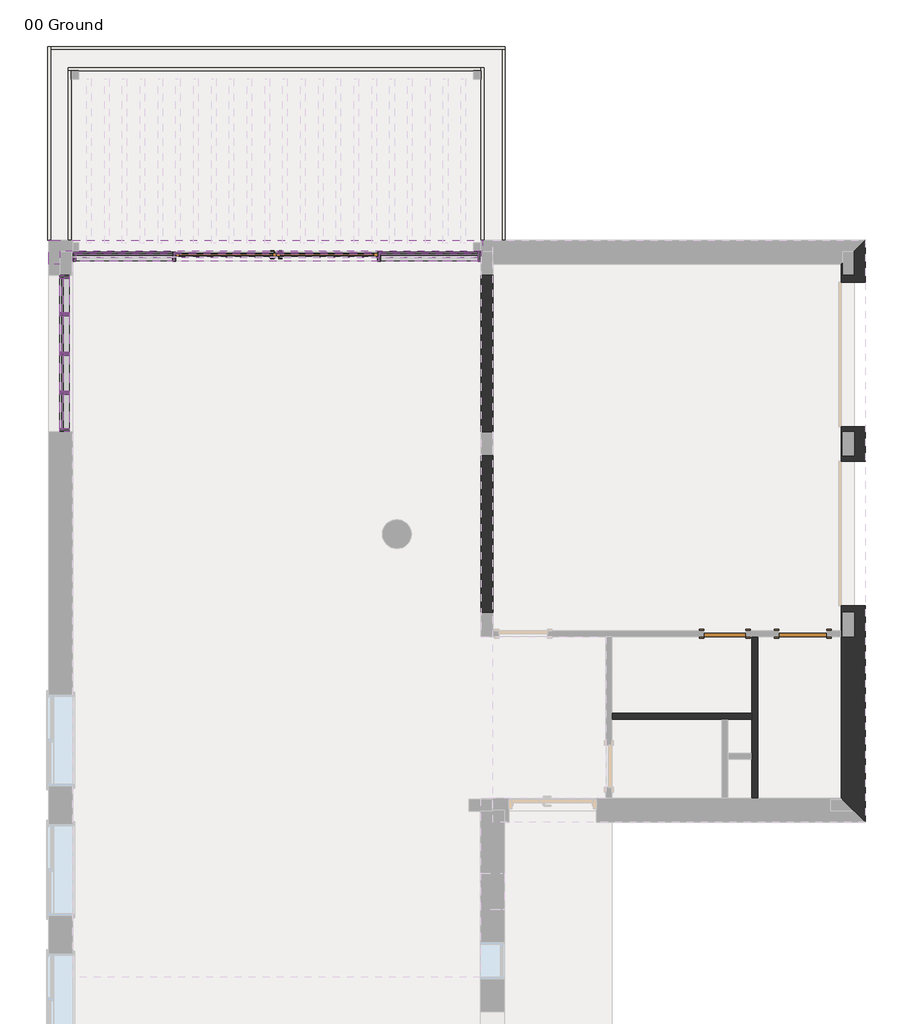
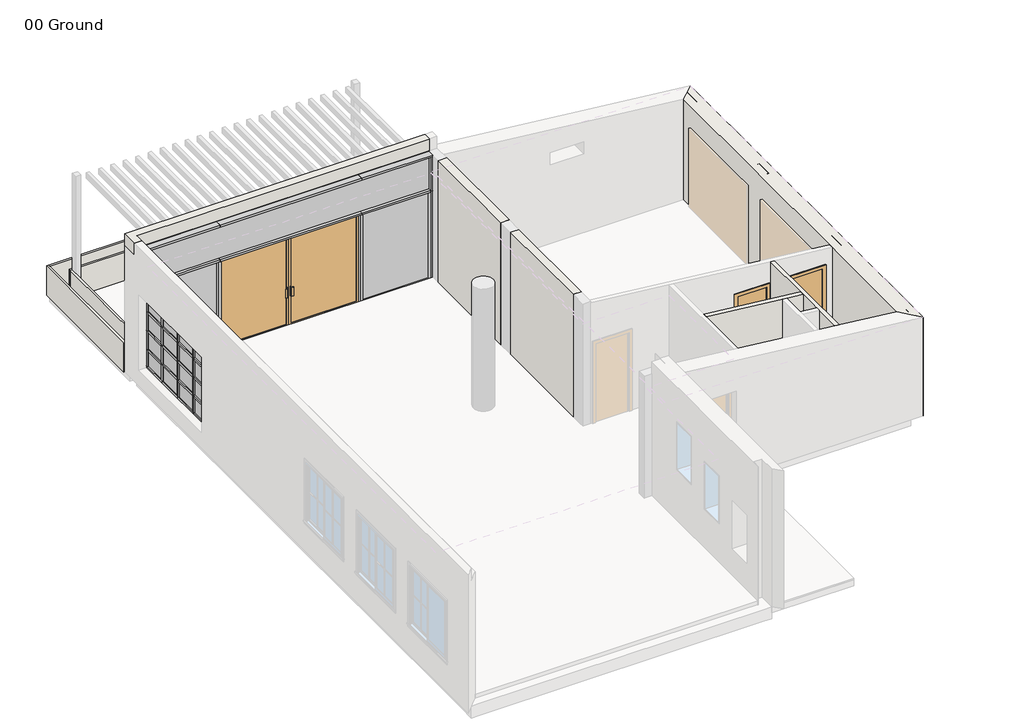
# One storey, part 2 of 3: 54 members, 19 plates, 12 walls, 3 doors.
"""IFC4 building model written with IfcOpenShell, lengths in millimetres."""

from ifc_helpers import new_model, si_unit, origin, origin_with_axes, place, context, project, spatial, polyline, outline, extrude, faceted_brep, transform, mapped, element, save
from components import m_door_curtain_wall_double_storefront_m_door_curtain_wall_edb91ac7, m_single_flush_0700_x_2100mm_23326b45, m_single_flush_0800_x_2100mm_e1c1bfab, rectangular_mullion_50_x_150mm_b8963a12, rectangular_mullion_50_x_150mm_ca64fab8, rectangular_mullion_50_x_150mm_c8600b0d, rectangular_mullion_50_x_150mm_7893aaae, rectangular_mullion_50_x_150mm_57f910c3, rectangular_mullion_50_x_150mm_ec782ea6, rectangular_mullion_50_x_150mm_8753ce05, rectangular_mullion_50_x_150mm_324a6438, rectangular_mullion_50_x_150mm_5618a3b2, rectangular_mullion_50_x_150mm_9d7ed0e7, rectangular_mullion_50_x_150mm_3942d5f1, rectangular_mullion_50_x_150mm_75048c14, rectangular_mullion_50_x_150mm_fcf054f2, rectangular_mullion_50_x_150mm_24157160, rectangular_mullion_50_x_150mm_bf0cb304, rectangular_mullion_50_x_150mm_89c22e8d, rectangular_mullion_50_x_150mm_42d59fea, rectangular_mullion_50_x_150mm_129a33a7, rectangular_mullion_50_x_150mm_05a43cda, system_panel_glazed_18425fd7, system_panel_glazed_5c27190a, system_panel_glazed_fdc58650, system_panel_glazed_707fa540, system_panel_glazed_f545c6ae, system_panel_glazed_1a6db426, system_panel_solid_6db23722

model = new_model("IFC4")

# Units and contexts
model_context = context("Model", 3, world=origin())
ifc_project = project(units=[si_unit("LENGTHUNIT", "METRE", prefix="MILLI")], contexts=[model_context])

# Site, building, storey
site = spatial("IfcSite", under=ifc_project)
building = spatial("IfcBuilding", under=site)
storey = spatial("IfcBuildingStorey", under=building, Name="00 Ground", Elevation=0.0)

# Doors
placement = place(None, origin())
m_door_curtain_wall_double_storefront_m_door_curtain_wall_shape = m_door_curtain_wall_double_storefront_m_door_curtain_wall_edb91ac7(model_context)
element("IfcDoor", 1, ObjectType="M_Door-Curtain-Wall-Double-Storefront : M_Door-Curtain-Wall-Double-Storefront", at=placement, inside=storey, context=model_context, shape_type="MappedRepresentation", body=[
    mapped(m_door_curtain_wall_double_storefront_m_door_curtain_wall_shape, transform((-4722.5407999, 6242.2898352, 0.0), x_axis=(1.0, 0.0, 0.0), y_axis=(0.0, 1.0, 0.0), z_axis=(0.0, 0.0, 1.0))),
])
m_single_flush_0700_x_2100mm_shape = m_single_flush_0700_x_2100mm_23326b45(model_context)
element("IfcDoor", 2, ObjectType="M_Single-Flush : 0700 x 2100mm", at=placement, inside=storey, context=model_context, shape_type="MappedRepresentation", body=[
    mapped(m_single_flush_0700_x_2100mm_shape, transform((2727.4592001, -12.7101648, 0.0), x_axis=(-1.0, 0.0, 0.0), y_axis=(0.0, -1.0, 0.0), z_axis=(0.0, 0.0, 1.0))),
])
m_single_flush_0800_x_2100mm_shape = m_single_flush_0800_x_2100mm_e1c1bfab(model_context)
element("IfcDoor", 3, ObjectType="M_Single-Flush : 0800 x 2100mm", at=placement, inside=storey, context=model_context, shape_type="MappedRepresentation", body=[
    mapped(m_single_flush_0800_x_2100mm_shape, transform((4024.4592001, -12.7101648, 0.0), x_axis=(1.0, 0.0, 0.0), y_axis=(0.0, 1.0, 0.0), z_axis=(0.0, 0.0, 1.0))),
])

# Members
rectangular_mullion_50_x_150mm_shape = rectangular_mullion_50_x_150mm_b8963a12(model_context)
element("IfcMember", 4, ObjectType="Rectangular Mullion : 50 x 150mm", at=placement, inside=storey, context=model_context, shape_type="MappedRepresentation", body=[
    mapped(rectangular_mullion_50_x_150mm_shape, transform((-2997.5407999, 6242.2898352, 0.0), x_axis=(0.0, 0.0, -1.0), y_axis=(0.0, -1.0, 0.0), z_axis=(-1.0, 0.0, 0.0))),
])
rectangular_mullion_50_x_150mm_2_shape = rectangular_mullion_50_x_150mm_ca64fab8(model_context)
element("IfcMember", 5, ObjectType="Rectangular Mullion : 50 x 150mm", at=placement, inside=storey, context=model_context, shape_type="MappedRepresentation", body=[
    mapped(rectangular_mullion_50_x_150mm_2_shape, transform((-3022.5407999, 6242.2898352, 3200.0), x_axis=(0.0, 0.0, 1.0), y_axis=(0.0, -1.0, 0.0), z_axis=(1.0, 0.0, 0.0))),
])
rectangular_mullion_50_x_150mm_3_shape = rectangular_mullion_50_x_150mm_c8600b0d(model_context)
element("IfcMember", 6, ObjectType="Rectangular Mullion : 50 x 150mm", at=placement, inside=storey, context=model_context, shape_type="MappedRepresentation", body=[
    mapped(rectangular_mullion_50_x_150mm_3_shape, transform((-1322.5407999, 6242.2898352, 3200.0), x_axis=(0.0, 0.0, 1.0), y_axis=(0.0, -1.0, 0.0), z_axis=(1.0, 0.0, 0.0))),
])
rectangular_mullion_50_x_150mm_4_shape = rectangular_mullion_50_x_150mm_7893aaae(model_context)
element("IfcMember", 7, ObjectType="Rectangular Mullion : 50 x 150mm", at=placement, inside=storey, context=model_context, shape_type="MappedRepresentation", body=[
    mapped(rectangular_mullion_50_x_150mm_4_shape, transform((-1372.5407999, 6242.2898352, 2300.0), x_axis=(0.0, 0.0, 1.0), y_axis=(0.0, -1.0, 0.0), z_axis=(1.0, 0.0, 0.0))),
])
rectangular_mullion_50_x_150mm_5_shape = rectangular_mullion_50_x_150mm_57f910c3(model_context)
element("IfcMember", 8, ObjectType="Rectangular Mullion : 50 x 150mm", at=placement, inside=storey, context=model_context, shape_type="MappedRepresentation", body=[
    mapped(rectangular_mullion_50_x_150mm_5_shape, transform((-3022.5407999, 6242.2898352, 2300.0), x_axis=(0.0, 0.0, 1.0), y_axis=(0.0, -1.0, 0.0), z_axis=(1.0, 0.0, 0.0))),
])
rectangular_mullion_50_x_150mm_6_shape = rectangular_mullion_50_x_150mm_ec782ea6(model_context)
element("IfcMember", 9, ObjectType="Rectangular Mullion : 50 x 150mm", at=placement, inside=storey, context=model_context, shape_type="MappedRepresentation", body=[
    mapped(rectangular_mullion_50_x_150mm_6_shape, transform((-6422.5407999, 6242.2898352, 0.0), x_axis=(1.0, 0.0, 0.0), y_axis=(0.0, -1.0, 0.0), z_axis=(0.0, 0.0, -1.0))),
])
element("IfcMember", 10, ObjectType="Rectangular Mullion : 50 x 150mm", at=placement, inside=storey, context=model_context, shape_type="MappedRepresentation", body=[
    mapped(rectangular_mullion_50_x_150mm_6_shape, transform((-3022.5407999, 6242.2898352, 0.0), x_axis=(1.0, 0.0, 0.0), y_axis=(0.0, -1.0, 0.0), z_axis=(0.0, 0.0, -1.0))),
])
rectangular_mullion_50_x_150mm_7_shape = rectangular_mullion_50_x_150mm_8753ce05(model_context)
element("IfcMember", 11, ObjectType="Rectangular Mullion : 50 x 150mm", at=placement, inside=storey, context=model_context, shape_type="MappedRepresentation", body=[
    mapped(rectangular_mullion_50_x_150mm_7_shape, transform((-1322.5407999, 6242.2898352, 0.0), x_axis=(1.0, 0.0, 0.0), y_axis=(0.0, -1.0, 0.0), z_axis=(0.0, 0.0, -1.0))),
])
rectangular_mullion_50_x_150mm_8_shape = rectangular_mullion_50_x_150mm_324a6438(model_context)
element("IfcMember", 12, ObjectType="Rectangular Mullion : 50 x 150mm", at=placement, inside=storey, context=model_context, shape_type="MappedRepresentation", body=[
    mapped(rectangular_mullion_50_x_150mm_8_shape, transform((-8109.5407999, 6242.2898352, 3150.0), x_axis=(-1.0, 0.0, 0.0), y_axis=(0.0, -1.0, 0.0), z_axis=(0.0, 0.0, 1.0))),
])
element("IfcMember", 13, ObjectType="Rectangular Mullion : 50 x 150mm", at=placement, inside=storey, context=model_context, shape_type="MappedRepresentation", body=[
    mapped(rectangular_mullion_50_x_150mm_8_shape, transform((-1322.5407999, 6242.2898352, 2300.0), x_axis=(1.0, 0.0, 0.0), y_axis=(0.0, -1.0, 0.0), z_axis=(0.0, 0.0, -1.0))),
])
element("IfcMember", 14, ObjectType="Rectangular Mullion : 50 x 150mm", at=placement, inside=storey, context=model_context, shape_type="MappedRepresentation", body=[
    mapped(rectangular_mullion_50_x_150mm_7_shape, transform((-8109.5407999, 6242.2898352, 2300.0), x_axis=(-1.0, 0.0, 0.0), y_axis=(0.0, -1.0, 0.0), z_axis=(0.0, 0.0, 1.0))),
])
rectangular_mullion_50_x_150mm_9_shape = rectangular_mullion_50_x_150mm_5618a3b2(model_context)
element("IfcMember", 15, ObjectType="Rectangular Mullion : 50 x 150mm", at=placement, inside=storey, context=model_context, shape_type="MappedRepresentation", body=[
    mapped(rectangular_mullion_50_x_150mm_9_shape, transform((-8247.5407999, 5937.2898352, 2300.0), x_axis=(0.0, 0.0, 1.0), y_axis=(1.0, 0.0, 0.0), z_axis=(0.0, 1.0, 0.0))),
])
element("IfcMember", 16, ObjectType="Rectangular Mullion : 50 x 150mm", at=placement, inside=storey, context=model_context, shape_type="MappedRepresentation", body=[
    mapped(rectangular_mullion_50_x_150mm_9_shape, transform((-8247.5407999, 3987.2898354, 2300.0), x_axis=(0.0, 0.0, 1.0), y_axis=(1.0, 0.0, 0.0), z_axis=(0.0, 1.0, 0.0))),
])
rectangular_mullion_50_x_150mm_10_shape = rectangular_mullion_50_x_150mm_9d7ed0e7(model_context)
element("IfcMember", 17, ObjectType="Rectangular Mullion : 50 x 150mm", at=placement, inside=storey, context=model_context, shape_type="MappedRepresentation", body=[
    mapped(rectangular_mullion_50_x_150mm_10_shape, transform((-8247.5407999, 4637.2898352, 2300.0), x_axis=(0.0, 0.0, 1.0), y_axis=(1.0, 0.0, 0.0), z_axis=(0.0, 1.0, 0.0))),
])
element("IfcMember", 18, ObjectType="Rectangular Mullion : 50 x 150mm", at=placement, inside=storey, context=model_context, shape_type="MappedRepresentation", body=[
    mapped(rectangular_mullion_50_x_150mm_10_shape, transform((-8247.5407999, 5287.2898351, 2300.0), x_axis=(0.0, 0.0, 1.0), y_axis=(1.0, 0.0, 0.0), z_axis=(0.0, 1.0, 0.0))),
])
element("IfcMember", 19, ObjectType="Rectangular Mullion : 50 x 150mm", at=placement, inside=storey, context=model_context, shape_type="MappedRepresentation", body=[
    mapped(rectangular_mullion_50_x_150mm_9_shape, transform((-8247.5407999, 3337.2898352, 400.0), x_axis=(0.0, 0.0, -1.0), y_axis=(1.0, 0.0, 0.0), z_axis=(0.0, -1.0, 0.0))),
])
element("IfcMember", 20, ObjectType="Rectangular Mullion : 50 x 150mm", at=placement, inside=storey, context=model_context, shape_type="MappedRepresentation", body=[
    mapped(rectangular_mullion_50_x_150mm_10_shape, transform((-8247.5407999, 3987.2898354, 400.0), x_axis=(0.0, 0.0, -1.0), y_axis=(1.0, 0.0, 0.0), z_axis=(0.0, -1.0, 0.0))),
])
element("IfcMember", 21, ObjectType="Rectangular Mullion : 50 x 150mm", at=placement, inside=storey, context=model_context, shape_type="MappedRepresentation", body=[
    mapped(rectangular_mullion_50_x_150mm_10_shape, transform((-8247.5407999, 4637.2898352, 400.0), x_axis=(0.0, 0.0, -1.0), y_axis=(1.0, 0.0, 0.0), z_axis=(0.0, -1.0, 0.0))),
])
element("IfcMember", 22, ObjectType="Rectangular Mullion : 50 x 150mm", at=placement, inside=storey, context=model_context, shape_type="MappedRepresentation", body=[
    mapped(rectangular_mullion_50_x_150mm_9_shape, transform((-8247.5407999, 5287.2898351, 400.0), x_axis=(0.0, 0.0, -1.0), y_axis=(1.0, 0.0, 0.0), z_axis=(0.0, -1.0, 0.0))),
])
rectangular_mullion_50_x_150mm_11_shape = rectangular_mullion_50_x_150mm_3942d5f1(model_context)
element("IfcMember", 23, ObjectType="Rectangular Mullion : 50 x 150mm", at=placement, inside=storey, context=model_context, shape_type="MappedRepresentation", body=[
    mapped(rectangular_mullion_50_x_150mm_11_shape, transform((-8247.5407999, 3962.2898354, 875.0), x_axis=(0.0, 0.0, 1.0), y_axis=(1.0, 0.0, 0.0), z_axis=(0.0, 1.0, 0.0))),
])
element("IfcMember", 24, ObjectType="Rectangular Mullion : 50 x 150mm", at=placement, inside=storey, context=model_context, shape_type="MappedRepresentation", body=[
    mapped(rectangular_mullion_50_x_150mm_11_shape, transform((-8247.5407999, 5887.2898352, 875.0), x_axis=(0.0, 0.0, 1.0), y_axis=(1.0, 0.0, 0.0), z_axis=(0.0, 1.0, 0.0))),
])
element("IfcMember", 25, ObjectType="Rectangular Mullion : 50 x 150mm", at=placement, inside=storey, context=model_context, shape_type="MappedRepresentation", body=[
    mapped(rectangular_mullion_50_x_150mm_11_shape, transform((-8247.5407999, 3962.2898354, 1350.0), x_axis=(0.0, 0.0, 1.0), y_axis=(1.0, 0.0, 0.0), z_axis=(0.0, 1.0, 0.0))),
])
element("IfcMember", 26, ObjectType="Rectangular Mullion : 50 x 150mm", at=placement, inside=storey, context=model_context, shape_type="MappedRepresentation", body=[
    mapped(rectangular_mullion_50_x_150mm_11_shape, transform((-8247.5407999, 5887.2898352, 1350.0), x_axis=(0.0, 0.0, 1.0), y_axis=(1.0, 0.0, 0.0), z_axis=(0.0, 1.0, 0.0))),
])
element("IfcMember", 27, ObjectType="Rectangular Mullion : 50 x 150mm", at=placement, inside=storey, context=model_context, shape_type="MappedRepresentation", body=[
    mapped(rectangular_mullion_50_x_150mm_11_shape, transform((-8247.5407999, 3962.2898354, 1825.0), x_axis=(0.0, 0.0, 1.0), y_axis=(1.0, 0.0, 0.0), z_axis=(0.0, 1.0, 0.0))),
])
element("IfcMember", 28, ObjectType="Rectangular Mullion : 50 x 150mm", at=placement, inside=storey, context=model_context, shape_type="MappedRepresentation", body=[
    mapped(rectangular_mullion_50_x_150mm_11_shape, transform((-8247.5407999, 5887.2898352, 1825.0), x_axis=(0.0, 0.0, 1.0), y_axis=(1.0, 0.0, 0.0), z_axis=(0.0, 1.0, 0.0))),
])
rectangular_mullion_50_x_150mm_12_shape = rectangular_mullion_50_x_150mm_75048c14(model_context)
element("IfcMember", 29, ObjectType="Rectangular Mullion : 50 x 150mm", at=placement, inside=storey, context=model_context, shape_type="MappedRepresentation", body=[
    mapped(rectangular_mullion_50_x_150mm_12_shape, transform((-8247.5407999, 4612.2898352, 875.0), x_axis=(0.0, 0.0, 1.0), y_axis=(1.0, 0.0, 0.0), z_axis=(0.0, 1.0, 0.0))),
])
element("IfcMember", 30, ObjectType="Rectangular Mullion : 50 x 150mm", at=placement, inside=storey, context=model_context, shape_type="MappedRepresentation", body=[
    mapped(rectangular_mullion_50_x_150mm_12_shape, transform((-8247.5407999, 5262.2898351, 875.0), x_axis=(0.0, 0.0, 1.0), y_axis=(1.0, 0.0, 0.0), z_axis=(0.0, 1.0, 0.0))),
])
element("IfcMember", 31, ObjectType="Rectangular Mullion : 50 x 150mm", at=placement, inside=storey, context=model_context, shape_type="MappedRepresentation", body=[
    mapped(rectangular_mullion_50_x_150mm_12_shape, transform((-8247.5407999, 4612.2898352, 1350.0), x_axis=(0.0, 0.0, 1.0), y_axis=(1.0, 0.0, 0.0), z_axis=(0.0, 1.0, 0.0))),
])
element("IfcMember", 32, ObjectType="Rectangular Mullion : 50 x 150mm", at=placement, inside=storey, context=model_context, shape_type="MappedRepresentation", body=[
    mapped(rectangular_mullion_50_x_150mm_12_shape, transform((-8247.5407999, 5262.2898351, 1350.0), x_axis=(0.0, 0.0, 1.0), y_axis=(1.0, 0.0, 0.0), z_axis=(0.0, 1.0, 0.0))),
])
element("IfcMember", 33, ObjectType="Rectangular Mullion : 50 x 150mm", at=placement, inside=storey, context=model_context, shape_type="MappedRepresentation", body=[
    mapped(rectangular_mullion_50_x_150mm_12_shape, transform((-8247.5407999, 4612.2898352, 1825.0), x_axis=(0.0, 0.0, 1.0), y_axis=(1.0, 0.0, 0.0), z_axis=(0.0, 1.0, 0.0))),
])
element("IfcMember", 34, ObjectType="Rectangular Mullion : 50 x 150mm", at=placement, inside=storey, context=model_context, shape_type="MappedRepresentation", body=[
    mapped(rectangular_mullion_50_x_150mm_12_shape, transform((-8247.5407999, 5262.2898351, 1825.0), x_axis=(0.0, 0.0, 1.0), y_axis=(1.0, 0.0, 0.0), z_axis=(0.0, 1.0, 0.0))),
])
rectangular_mullion_50_x_150mm_13_shape = rectangular_mullion_50_x_150mm_fcf054f2(model_context)
element("IfcMember", 35, ObjectType="Rectangular Mullion : 50 x 150mm", at=placement, inside=storey, context=model_context, shape_type="MappedRepresentation", body=[
    mapped(rectangular_mullion_50_x_150mm_13_shape, transform((-6422.5407999, 6242.2898352, 3200.0), x_axis=(0.0, 0.0, 1.0), y_axis=(0.0, -1.0, 0.0), z_axis=(1.0, 0.0, 0.0))),
])
rectangular_mullion_50_x_150mm_14_shape = rectangular_mullion_50_x_150mm_24157160(model_context)
element("IfcMember", 36, ObjectType="Rectangular Mullion : 50 x 150mm", at=placement, inside=storey, context=model_context, shape_type="MappedRepresentation", body=[
    mapped(rectangular_mullion_50_x_150mm_14_shape, transform((-8059.5407999, 6242.2898352, 0.0), x_axis=(0.0, 0.0, -1.0), y_axis=(0.0, -1.0, 0.0), z_axis=(-1.0, 0.0, 0.0))),
])
rectangular_mullion_50_x_150mm_15_shape = rectangular_mullion_50_x_150mm_bf0cb304(model_context)
element("IfcMember", 37, ObjectType="Rectangular Mullion : 50 x 150mm", at=placement, inside=storey, context=model_context, shape_type="MappedRepresentation", body=[
    mapped(rectangular_mullion_50_x_150mm_15_shape, transform((-6422.5407999, 6242.2898352, 2300.0), x_axis=(0.0, 0.0, 1.0), y_axis=(0.0, -1.0, 0.0), z_axis=(1.0, 0.0, 0.0))),
])
rectangular_mullion_50_x_150mm_16_shape = rectangular_mullion_50_x_150mm_89c22e8d(model_context)
element("IfcMember", 38, ObjectType="Rectangular Mullion : 50 x 150mm", at=placement, inside=storey, context=model_context, shape_type="MappedRepresentation", body=[
    mapped(rectangular_mullion_50_x_150mm_16_shape, transform((-8247.5407999, 5937.2898352, 450.0), x_axis=(0.0, 1.0, 0.0), y_axis=(1.0, 0.0, 0.0), z_axis=(0.0, 0.0, -1.0))),
])
rectangular_mullion_50_x_150mm_17_shape = rectangular_mullion_50_x_150mm_42d59fea(model_context)
element("IfcMember", 39, ObjectType="Rectangular Mullion : 50 x 150mm", at=placement, inside=storey, context=model_context, shape_type="MappedRepresentation", body=[
    mapped(rectangular_mullion_50_x_150mm_17_shape, transform((-8247.5407999, 5937.2898352, 875.0), x_axis=(0.0, 1.0, 0.0), y_axis=(1.0, 0.0, 0.0), z_axis=(0.0, 0.0, -1.0))),
])
element("IfcMember", 40, ObjectType="Rectangular Mullion : 50 x 150mm", at=placement, inside=storey, context=model_context, shape_type="MappedRepresentation", body=[
    mapped(rectangular_mullion_50_x_150mm_17_shape, transform((-8247.5407999, 5937.2898352, 1350.0), x_axis=(0.0, 1.0, 0.0), y_axis=(1.0, 0.0, 0.0), z_axis=(0.0, 0.0, -1.0))),
])
element("IfcMember", 41, ObjectType="Rectangular Mullion : 50 x 150mm", at=placement, inside=storey, context=model_context, shape_type="MappedRepresentation", body=[
    mapped(rectangular_mullion_50_x_150mm_16_shape, transform((-8247.5407999, 5937.2898352, 1825.0), x_axis=(0.0, 1.0, 0.0), y_axis=(1.0, 0.0, 0.0), z_axis=(0.0, 0.0, -1.0))),
])
element("IfcMember", 42, ObjectType="Rectangular Mullion : 50 x 150mm", at=placement, inside=storey, context=model_context, shape_type="MappedRepresentation", body=[
    mapped(rectangular_mullion_50_x_150mm_16_shape, transform((-8247.5407999, 3337.2898352, 2250.0), x_axis=(0.0, -1.0, 0.0), y_axis=(1.0, 0.0, 0.0), z_axis=(0.0, 0.0, 1.0))),
])
element("IfcMember", 43, ObjectType="Rectangular Mullion : 50 x 150mm", at=placement, inside=storey, context=model_context, shape_type="MappedRepresentation", body=[
    mapped(rectangular_mullion_50_x_150mm_16_shape, transform((-8247.5407999, 3337.2898352, 875.0), x_axis=(0.0, -1.0, 0.0), y_axis=(1.0, 0.0, 0.0), z_axis=(0.0, 0.0, 1.0))),
])
element("IfcMember", 44, ObjectType="Rectangular Mullion : 50 x 150mm", at=placement, inside=storey, context=model_context, shape_type="MappedRepresentation", body=[
    mapped(rectangular_mullion_50_x_150mm_17_shape, transform((-8247.5407999, 3337.2898352, 1350.0), x_axis=(0.0, -1.0, 0.0), y_axis=(1.0, 0.0, 0.0), z_axis=(0.0, 0.0, 1.0))),
])
element("IfcMember", 45, ObjectType="Rectangular Mullion : 50 x 150mm", at=placement, inside=storey, context=model_context, shape_type="MappedRepresentation", body=[
    mapped(rectangular_mullion_50_x_150mm_17_shape, transform((-8247.5407999, 3337.2898352, 1825.0), x_axis=(0.0, -1.0, 0.0), y_axis=(1.0, 0.0, 0.0), z_axis=(0.0, 0.0, 1.0))),
])
rectangular_mullion_50_x_150mm_18_shape = rectangular_mullion_50_x_150mm_129a33a7(model_context)
element("IfcMember", 46, ObjectType="Rectangular Mullion : 50 x 150mm", at=placement, inside=storey, context=model_context, shape_type="MappedRepresentation", body=[
    mapped(rectangular_mullion_50_x_150mm_18_shape, transform((-8247.5407999, 3987.2898354, 450.0), x_axis=(0.0, 1.0, 0.0), y_axis=(1.0, 0.0, 0.0), z_axis=(0.0, 0.0, -1.0))),
])
element("IfcMember", 47, ObjectType="Rectangular Mullion : 50 x 150mm", at=placement, inside=storey, context=model_context, shape_type="MappedRepresentation", body=[
    mapped(rectangular_mullion_50_x_150mm_18_shape, transform((-8247.5407999, 4637.2898352, 450.0), x_axis=(0.0, 1.0, 0.0), y_axis=(1.0, 0.0, 0.0), z_axis=(0.0, 0.0, -1.0))),
])
element("IfcMember", 48, ObjectType="Rectangular Mullion : 50 x 150mm", at=placement, inside=storey, context=model_context, shape_type="MappedRepresentation", body=[
    mapped(rectangular_mullion_50_x_150mm_18_shape, transform((-8247.5407999, 5287.2898351, 450.0), x_axis=(0.0, 1.0, 0.0), y_axis=(1.0, 0.0, 0.0), z_axis=(0.0, 0.0, -1.0))),
])
rectangular_mullion_50_x_150mm_19_shape = rectangular_mullion_50_x_150mm_05a43cda(model_context)
element("IfcMember", 49, ObjectType="Rectangular Mullion : 50 x 150mm", at=placement, inside=storey, context=model_context, shape_type="MappedRepresentation", body=[
    mapped(rectangular_mullion_50_x_150mm_19_shape, transform((-8247.5407999, 3987.2898354, 875.0), x_axis=(0.0, 1.0, 0.0), y_axis=(1.0, 0.0, 0.0), z_axis=(0.0, 0.0, -1.0))),
])
element("IfcMember", 50, ObjectType="Rectangular Mullion : 50 x 150mm", at=placement, inside=storey, context=model_context, shape_type="MappedRepresentation", body=[
    mapped(rectangular_mullion_50_x_150mm_19_shape, transform((-8247.5407999, 4637.2898352, 875.0), x_axis=(0.0, 1.0, 0.0), y_axis=(1.0, 0.0, 0.0), z_axis=(0.0, 0.0, -1.0))),
])
element("IfcMember", 51, ObjectType="Rectangular Mullion : 50 x 150mm", at=placement, inside=storey, context=model_context, shape_type="MappedRepresentation", body=[
    mapped(rectangular_mullion_50_x_150mm_19_shape, transform((-8247.5407999, 5287.2898351, 875.0), x_axis=(0.0, 1.0, 0.0), y_axis=(1.0, 0.0, 0.0), z_axis=(0.0, 0.0, -1.0))),
])
element("IfcMember", 52, ObjectType="Rectangular Mullion : 50 x 150mm", at=placement, inside=storey, context=model_context, shape_type="MappedRepresentation", body=[
    mapped(rectangular_mullion_50_x_150mm_19_shape, transform((-8247.5407999, 3987.2898354, 1350.0), x_axis=(0.0, 1.0, 0.0), y_axis=(1.0, 0.0, 0.0), z_axis=(0.0, 0.0, -1.0))),
])
element("IfcMember", 53, ObjectType="Rectangular Mullion : 50 x 150mm", at=placement, inside=storey, context=model_context, shape_type="MappedRepresentation", body=[
    mapped(rectangular_mullion_50_x_150mm_19_shape, transform((-8247.5407999, 4637.2898352, 1350.0), x_axis=(0.0, 1.0, 0.0), y_axis=(1.0, 0.0, 0.0), z_axis=(0.0, 0.0, -1.0))),
])
element("IfcMember", 54, ObjectType="Rectangular Mullion : 50 x 150mm", at=placement, inside=storey, context=model_context, shape_type="MappedRepresentation", body=[
    mapped(rectangular_mullion_50_x_150mm_19_shape, transform((-8247.5407999, 5287.2898351, 1350.0), x_axis=(0.0, 1.0, 0.0), y_axis=(1.0, 0.0, 0.0), z_axis=(0.0, 0.0, -1.0))),
])
element("IfcMember", 55, ObjectType="Rectangular Mullion : 50 x 150mm", at=placement, inside=storey, context=model_context, shape_type="MappedRepresentation", body=[
    mapped(rectangular_mullion_50_x_150mm_18_shape, transform((-8247.5407999, 3987.2898354, 1825.0), x_axis=(0.0, 1.0, 0.0), y_axis=(1.0, 0.0, 0.0), z_axis=(0.0, 0.0, -1.0))),
])
element("IfcMember", 56, ObjectType="Rectangular Mullion : 50 x 150mm", at=placement, inside=storey, context=model_context, shape_type="MappedRepresentation", body=[
    mapped(rectangular_mullion_50_x_150mm_18_shape, transform((-8247.5407999, 4637.2898352, 1825.0), x_axis=(0.0, 1.0, 0.0), y_axis=(1.0, 0.0, 0.0), z_axis=(0.0, 0.0, -1.0))),
])
element("IfcMember", 57, ObjectType="Rectangular Mullion : 50 x 150mm", at=placement, inside=storey, context=model_context, shape_type="MappedRepresentation", body=[
    mapped(rectangular_mullion_50_x_150mm_18_shape, transform((-8247.5407999, 5287.2898351, 1825.0), x_axis=(0.0, 1.0, 0.0), y_axis=(1.0, 0.0, 0.0), z_axis=(0.0, 0.0, -1.0))),
])

# Plates
system_panel_glazed_shape = system_panel_glazed_18425fd7(model_context)
element("IfcPlate", 58, ObjectType="System Panel : Glazed", at=placement, inside=storey, context=model_context, shape_type="MappedRepresentation", body=[
    mapped(system_panel_glazed_shape, transform((-2185.0407999, 6242.2898352, 50.0), x_axis=(1.0, 0.0, 0.0), y_axis=(0.0, 1.0, 0.0), z_axis=(0.0, 0.0, 1.0))),
])
system_panel_glazed_2_shape = system_panel_glazed_5c27190a(model_context)
element("IfcPlate", 59, ObjectType="System Panel : Glazed", at=placement, inside=storey, context=model_context, shape_type="MappedRepresentation", body=[
    mapped(system_panel_glazed_2_shape, transform((-8247.5407999, 3674.7898353, 900.0), x_axis=(0.0, 1.0, 0.0), y_axis=(-1.0, 0.0, 0.0), z_axis=(0.0, 0.0, 1.0))),
])
element("IfcPlate", 60, ObjectType="System Panel : Glazed", at=placement, inside=storey, context=model_context, shape_type="MappedRepresentation", body=[
    mapped(system_panel_glazed_2_shape, transform((-8247.5407999, 5599.7898352, 900.0), x_axis=(0.0, 1.0, 0.0), y_axis=(-1.0, 0.0, 0.0), z_axis=(0.0, 0.0, 1.0))),
])
element("IfcPlate", 61, ObjectType="System Panel : Glazed", at=placement, inside=storey, context=model_context, shape_type="MappedRepresentation", body=[
    mapped(system_panel_glazed_2_shape, transform((-8247.5407999, 3674.7898353, 1375.0), x_axis=(0.0, 1.0, 0.0), y_axis=(-1.0, 0.0, 0.0), z_axis=(0.0, 0.0, 1.0))),
])
element("IfcPlate", 62, ObjectType="System Panel : Glazed", at=placement, inside=storey, context=model_context, shape_type="MappedRepresentation", body=[
    mapped(system_panel_glazed_2_shape, transform((-8247.5407999, 5599.7898352, 1375.0), x_axis=(0.0, 1.0, 0.0), y_axis=(-1.0, 0.0, 0.0), z_axis=(0.0, 0.0, 1.0))),
])
system_panel_glazed_3_shape = system_panel_glazed_fdc58650(model_context)
element("IfcPlate", 63, ObjectType="System Panel : Glazed", at=placement, inside=storey, context=model_context, shape_type="MappedRepresentation", body=[
    mapped(system_panel_glazed_3_shape, transform((-8247.5407999, 4312.2898353, 900.0), x_axis=(0.0, 1.0, 0.0), y_axis=(-1.0, 0.0, 0.0), z_axis=(0.0, 0.0, 1.0))),
])
element("IfcPlate", 64, ObjectType="System Panel : Glazed", at=placement, inside=storey, context=model_context, shape_type="MappedRepresentation", body=[
    mapped(system_panel_glazed_3_shape, transform((-8247.5407999, 4962.2898352, 900.0), x_axis=(0.0, 1.0, 0.0), y_axis=(-1.0, 0.0, 0.0), z_axis=(0.0, 0.0, 1.0))),
])
element("IfcPlate", 65, ObjectType="System Panel : Glazed", at=placement, inside=storey, context=model_context, shape_type="MappedRepresentation", body=[
    mapped(system_panel_glazed_3_shape, transform((-8247.5407999, 4312.2898353, 1375.0), x_axis=(0.0, 1.0, 0.0), y_axis=(-1.0, 0.0, 0.0), z_axis=(0.0, 0.0, 1.0))),
])
element("IfcPlate", 66, ObjectType="System Panel : Glazed", at=placement, inside=storey, context=model_context, shape_type="MappedRepresentation", body=[
    mapped(system_panel_glazed_3_shape, transform((-8247.5407999, 4962.2898352, 1375.0), x_axis=(0.0, 1.0, 0.0), y_axis=(-1.0, 0.0, 0.0), z_axis=(0.0, 0.0, 1.0))),
])
system_panel_glazed_4_shape = system_panel_glazed_707fa540(model_context)
element("IfcPlate", 67, ObjectType="System Panel : Glazed", at=placement, inside=storey, context=model_context, shape_type="MappedRepresentation", body=[
    mapped(system_panel_glazed_4_shape, transform((-7253.5407999, 6242.2898352, 50.0), x_axis=(1.0, 0.0, 0.0), y_axis=(0.0, 1.0, 0.0), z_axis=(0.0, 0.0, 1.0))),
])
system_panel_glazed_5_shape = system_panel_glazed_f545c6ae(model_context)
element("IfcPlate", 68, ObjectType="System Panel : Glazed", at=placement, inside=storey, context=model_context, shape_type="MappedRepresentation", body=[
    mapped(system_panel_glazed_5_shape, transform((-8247.5407999, 3674.7898353, 450.0), x_axis=(0.0, 1.0, 0.0), y_axis=(-1.0, 0.0, 0.0), z_axis=(0.0, 0.0, 1.0))),
])
element("IfcPlate", 69, ObjectType="System Panel : Glazed", at=placement, inside=storey, context=model_context, shape_type="MappedRepresentation", body=[
    mapped(system_panel_glazed_5_shape, transform((-8247.5407999, 5599.7898352, 450.0), x_axis=(0.0, 1.0, 0.0), y_axis=(-1.0, 0.0, 0.0), z_axis=(0.0, 0.0, 1.0))),
])
element("IfcPlate", 70, ObjectType="System Panel : Glazed", at=placement, inside=storey, context=model_context, shape_type="MappedRepresentation", body=[
    mapped(system_panel_glazed_5_shape, transform((-8247.5407999, 3674.7898353, 1850.0), x_axis=(0.0, 1.0, 0.0), y_axis=(-1.0, 0.0, 0.0), z_axis=(0.0, 0.0, 1.0))),
])
element("IfcPlate", 71, ObjectType="System Panel : Glazed", at=placement, inside=storey, context=model_context, shape_type="MappedRepresentation", body=[
    mapped(system_panel_glazed_5_shape, transform((-8247.5407999, 5599.7898352, 1850.0), x_axis=(0.0, 1.0, 0.0), y_axis=(-1.0, 0.0, 0.0), z_axis=(0.0, 0.0, 1.0))),
])
system_panel_glazed_6_shape = system_panel_glazed_1a6db426(model_context)
element("IfcPlate", 72, ObjectType="System Panel : Glazed", at=placement, inside=storey, context=model_context, shape_type="MappedRepresentation", body=[
    mapped(system_panel_glazed_6_shape, transform((-8247.5407999, 4312.2898353, 450.0), x_axis=(0.0, 1.0, 0.0), y_axis=(-1.0, 0.0, 0.0), z_axis=(0.0, 0.0, 1.0))),
])
element("IfcPlate", 73, ObjectType="System Panel : Glazed", at=placement, inside=storey, context=model_context, shape_type="MappedRepresentation", body=[
    mapped(system_panel_glazed_6_shape, transform((-8247.5407999, 4962.2898352, 450.0), x_axis=(0.0, 1.0, 0.0), y_axis=(-1.0, 0.0, 0.0), z_axis=(0.0, 0.0, 1.0))),
])
element("IfcPlate", 74, ObjectType="System Panel : Glazed", at=placement, inside=storey, context=model_context, shape_type="MappedRepresentation", body=[
    mapped(system_panel_glazed_6_shape, transform((-8247.5407999, 4312.2898353, 1850.0), x_axis=(0.0, 1.0, 0.0), y_axis=(-1.0, 0.0, 0.0), z_axis=(0.0, 0.0, 1.0))),
])
element("IfcPlate", 75, ObjectType="System Panel : Glazed", at=placement, inside=storey, context=model_context, shape_type="MappedRepresentation", body=[
    mapped(system_panel_glazed_6_shape, transform((-8247.5407999, 4962.2898352, 1850.0), x_axis=(0.0, 1.0, 0.0), y_axis=(-1.0, 0.0, 0.0), z_axis=(0.0, 0.0, 1.0))),
])
system_panel_solid_shape = system_panel_solid_6db23722(model_context)
element("IfcPlate", 76, ObjectType="System Panel : Solid", at=placement, inside=storey, context=model_context, shape_type="MappedRepresentation", body=[
    mapped(system_panel_solid_shape, transform((-4716.0407999, 6242.2898352, 2325.0), x_axis=(1.0, 0.0, 0.0), y_axis=(0.0, 1.0, 0.0), z_axis=(0.0, 0.0, 1.0))),
])

# Walls
element("IfcWall", 77, ObjectType="45T-25linea", at=placement, inside=storey, context=model_context, shape_type="SweptSolid", body=[
    extrude(outline(polyline([(-967.5407999, 6337.2898352), (-1122.5407999, 6337.2898352), (-1122.5407999, 6382.2898352), (-967.5407999, 6382.2898352), (-967.5407999, 6337.2898352)])), origin_with_axes(), (0.0, 0.0, 1.0), 750.0),
])
element("IfcWall", 78, ObjectType="45T-25linea", at=placement, inside=storey, context=model_context, shape_type="Brep", body=[
    faceted_brep([(-8477.5407999, 6522.2898352, 0.0), (-8477.5407999, 9692.2898352, 0.0), (-8477.5407999, 9737.2898352, 0.0), (-8477.5407999, 9737.2898352, 750.0), (-8477.5407999, 9692.2898352, 750.0), (-8477.5407999, 6522.2898352, 750.0), (-8522.5407999, 6522.2898352, 0.0), (-8522.5407999, 6522.2898352, 750.0), (-8522.5407999, 9737.2898352, 750.0), (-8522.5407999, 9737.2898352, 0.0)], [[[0, 1, 2, 3, 4, 5]], [[6, 7, 8, 9]], [[2, 1, 0, 6, 9]], [[5, 4, 3, 8, 7]], [[0, 5, 7, 6]], [[3, 2, 9, 8]]]),
])
element("IfcWall", 79, ObjectType="45T-25linea", at=placement, inside=storey, context=model_context, shape_type="Brep", body=[
    faceted_brep([(-8477.5407999, 9692.2898352, 0.0), (-967.5407999, 9692.2898352, 0.0), (-922.5407999, 9692.2898352, 0.0), (-922.5407999, 9692.2898352, 750.0), (-967.5407999, 9692.2898352, 750.0), (-8477.5407999, 9692.2898352, 750.0), (-8477.5407999, 9737.2898352, 0.0), (-8477.5407999, 9737.2898352, 750.0), (-922.5407999, 9737.2898352, 750.0), (-922.5407999, 9737.2898352, 0.0)], [[[0, 1, 2, 3, 4, 5]], [[6, 7, 8, 9]], [[2, 1, 0, 6, 9]], [[5, 4, 3, 8, 7]], [[0, 5, 7, 6]], [[3, 2, 9, 8]]]),
])
element("IfcWall", 80, ObjectType="45T-25linea", at=placement, inside=storey, context=model_context, shape_type="SweptSolid", body=[
    extrude(outline(polyline([(-967.5407999, 6522.2898352), (-967.5407999, 9692.2898352), (-922.5407999, 9692.2898352), (-922.5407999, 6522.2898352), (-967.5407999, 6522.2898352)])), origin_with_axes(), (0.0, 0.0, 1.0), 750.0),
])
element("IfcWall", 81, ObjectType="45T-25linea", at=placement, inside=storey, context=model_context, shape_type="Brep", body=[
    faceted_brep([(-1277.5407999, 6522.2898352, 0.0), (-1277.5407999, 9382.2898352, 0.0), (-1277.5407999, 9382.2898352, 750.0), (-1277.5407999, 6522.2898352, 750.0), (-1322.5407999, 6522.2898352, 0.0), (-1322.5407999, 6522.2898352, 750.0), (-1322.5407999, 9337.2898352, 750.0), (-1322.5407999, 9382.2898352, 750.0), (-1322.5407999, 9382.2898352, 0.0), (-1322.5407999, 9337.2898352, 0.0)], [[[0, 1, 2, 3]], [[4, 5, 6, 7, 8, 9]], [[1, 0, 4, 9, 8]], [[3, 2, 7, 6, 5]], [[0, 3, 5, 4]], [[2, 1, 8, 7]]]),
])
element("IfcWall", 82, ObjectType="45T-25linea", at=placement, inside=storey, context=model_context, shape_type="Brep", body=[
    faceted_brep([(-1322.5407999, 9382.2898352, 0.0), (-8182.5407999, 9382.2898352, 0.0), (-8182.5407999, 9382.2898352, 750.0), (-1322.5407999, 9382.2898352, 750.0), (-1322.5407999, 9337.2898352, 0.0), (-1322.5407999, 9337.2898352, 750.0), (-8137.5407999, 9337.2898352, 750.0), (-8182.5407999, 9337.2898352, 750.0), (-8182.5407999, 9337.2898352, 0.0), (-8137.5407999, 9337.2898352, 0.0)], [[[0, 1, 2, 3]], [[4, 5, 6, 7, 8, 9]], [[1, 0, 4, 9, 8]], [[3, 2, 7, 6, 5]], [[0, 3, 5, 4]], [[2, 1, 8, 7]]]),
])
element("IfcWall", 83, ObjectType="45T-25linea", at=placement, inside=storey, context=model_context, shape_type="SweptSolid", body=[
    extrude(outline(polyline([(-8182.5407999, 6522.2898352), (-8182.5407999, 9337.2898352), (-8137.5407999, 9337.2898352), (-8137.5407999, 6522.2898352), (-8182.5407999, 6522.2898352)])), origin_with_axes(), (0.0, 0.0, 1.0), 750.0),
])
element("IfcWall", 84, ObjectType="Exterior - Brick on CMU", at=placement, inside=storey, context=model_context, shape_type="Brep", body=[
    faceted_brep([(5062.4592001, -3147.7101648, 2500.0), (5062.4592001, -3147.7101648, 0.0), (5062.4592001, 450.2898352, 0.0), (5062.4592001, 450.2898352, 2000.0), (5062.4592001, 2850.2898352, 2000.0), (5062.4592001, 2850.2898352, 0.0), (5062.4592001, 3424.2898352, 0.0), (5062.4592001, 3424.2898352, 2000.0), (5062.4592001, 5824.2898352, 2000.0), (5062.4592001, 5824.2898352, 0.0), (5062.4592001, 6522.2898352, 0.0), (5062.4592001, 6522.2898352, 2500.0), (4664.4592001, -2749.7101648, 0.0), (4664.4592001, -2749.7101648, 2542.4704931), (4664.4592001, -62.7101648, 2542.4704931), (4664.4592001, 37.2898352, 2542.4704931), (4664.4592001, 6124.2898352, 2542.4704931), (4664.4592001, 6124.2898352, 0.0), (4664.4592001, 5824.2898352, 0.0), (4664.4592001, 5824.2898352, 2000.0), (4664.4592001, 3424.2898352, 2000.0), (4664.4592001, 3424.2898352, 0.0), (4664.4592001, 2850.2898352, 0.0), (4664.4592001, 2850.2898352, 2000.0), (4664.4592001, 450.2898352, 2000.0), (4664.4592001, 450.2898352, 0.0), (4664.4592001, 37.2898352, 0.0), (4664.4592001, -62.7101648, 0.0), (4877.4592001, -2962.7101648, 0.0), (4677.4592001, -2762.7101648, 0.0), (4877.4592001, 337.2898352, 0.0), (4677.4592001, 337.2898352, 0.0), (4677.4592001, -62.7101648, 0.0), (4877.4592001, -62.7101648, 0.0), (4677.4592001, 6137.2898352, 0.0), (4677.4592001, 5937.2898352, 0.0), (4877.4592001, 5937.2898352, 0.0), (4877.4592001, 6337.2898352, 0.0), (4877.4592001, 2937.2898352, 0.0), (4877.4592001, 3337.2898352, 0.0), (4677.4592001, 3337.2898352, 0.0), (4677.4592001, 2937.2898352, 0.0), (4877.4592001, 6337.2898352, 2519.7413096), (4677.4592001, 6137.2898352, 2519.7413096), (4877.4592001, 2937.2898352, 2519.7413096), (4877.4592001, 3337.2898352, 2519.7413096), (4677.4592001, 2937.2898352, 2519.7413096), (4677.4592001, 3337.2898352, 2519.7413096), (4677.4592001, 337.2898352, 2519.7413096), (4877.4592001, 337.2898352, 2519.7413096), (4877.4592001, -62.7101648, 2519.7413096), (4677.4592001, -62.7101648, 2519.7413096), (4877.4592001, 5937.2898352, 2519.7413096), (4677.4592001, 5937.2898352, 2519.7413096)], [[[0, 1, 2, 3, 4, 5, 6, 7, 8, 9, 10, 11]], [[12, 13, 14, 15, 16, 17, 18, 19, 20, 21, 22, 23, 24, 25, 26, 27]], [[1, 28, 29, 12, 27, 26, 25, 2], [30, 31, 32, 33]], [[10, 9, 18, 17, 34, 35, 36, 37]], [[21, 6, 5, 22], [38, 39, 40, 41]], [[1, 0, 13, 12, 29, 28]], [[11, 10, 37, 42]], [[17, 16, 42, 43, 34]], [[44, 45, 39, 38]], [[44, 38, 41, 46]], [[39, 45, 47, 40]], [[48, 31, 30, 49]], [[49, 30, 33, 50]], [[32, 51, 50, 33]], [[52, 42, 37, 36]], [[52, 36, 35, 53]], [[46, 41, 40, 47]], [[48, 51, 32, 31]], [[53, 35, 34, 43]], [[0, 11, 42, 16, 15, 14, 13]], [[45, 44, 46, 47]], [[51, 48, 49, 50]], [[42, 52, 53, 43]], [[20, 7, 6, 21]], [[7, 20, 19, 8]], [[8, 19, 18, 9]], [[24, 3, 2, 25]], [[3, 24, 23, 4]], [[4, 23, 22, 5]]]),
])
element("IfcWall", 85, ObjectType="Exterior - Brick on CMU", at=placement, inside=storey, context=model_context, shape_type="Brep", body=[
    faceted_brep([(-8507.5407999, 6522.2898352, 3200.0), (-8507.5407999, 6522.2898352, 3500.0), (-2997.5407999, 6522.2898352, 3500.0), (-1300.0407999, 6522.2898352, 3500.0), (-1300.0407999, 6522.2898352, 3200.0), (-1322.5407999, 6522.2898352, 3200.0), (-8109.5407999, 6522.2898352, 3200.0), (-8507.5407999, 6124.2898352, 3500.0), (-8507.5407999, 6124.2898352, 3200.0), (-8322.5407999, 6124.2898352, 3200.0), (-8322.5407999, 6124.2898352, 3500.0), (-1300.0407999, 6337.2898352, 3200.0), (-1322.5407999, 6337.2898352, 3200.0), (-8122.5407999, 6337.2898352, 3200.0), (-8322.5407999, 6337.2898352, 3200.0), (-8322.5407999, 6337.2898352, 3500.0), (-1322.5407999, 6337.2898352, 3500.0), (-1300.0407999, 6337.2898352, 3500.0)], [[[0, 1, 2, 3, 4, 5, 6]], [[7, 8, 9, 10]], [[8, 0, 6, 5, 4, 11, 12, 13, 14, 9]], [[1, 0, 8, 7]], [[1, 7, 10, 15, 16, 17, 3, 2]], [[15, 14, 13, 12, 11, 17, 16]], [[4, 3, 17, 11]], [[14, 15, 10, 9]]]),
])
element("IfcWall", 86, ObjectType="Generic - 100mm", at=placement, inside=storey, context=model_context, shape_type="Brep", body=[
    faceted_brep([(3277.4592001, -2749.7101648, 0.0), (3277.4592001, -62.7101648, 0.0), (3277.4592001, -62.7101648, 2690.4769604), (3277.4592001, -2749.7101648, 2690.4769604), (3177.4592001, -2749.7101648, 0.0), (3177.4592001, -2749.7101648, 2701.1479386), (3177.4592001, -2097.7101648, 2701.1479386), (3177.4592001, -1997.7101648, 2701.1479386), (3177.4592001, -1432.7101648, 2701.1479386), (3177.4592001, -1332.7101648, 2701.1479386), (3177.4592001, -62.7101648, 2701.1479386), (3177.4592001, -62.7101648, 0.0), (3177.4592001, -1332.7101648, 0.0), (3177.4592001, -1432.7101648, 0.0), (3177.4592001, -1997.7101648, 0.0), (3177.4592001, -2097.7101648, 0.0)], [[[0, 1, 2, 3]], [[4, 5, 6, 7, 8, 9, 10, 11, 12, 13, 14, 15]], [[1, 0, 4, 15, 14, 13, 12, 11]], [[0, 3, 5, 4]], [[2, 1, 11, 10]], [[3, 2, 10, 9, 8, 7, 6, 5]]]),
])
element("IfcWall", 87, ObjectType="Generic - 100mm", at=placement, inside=storey, context=model_context, shape_type="Brep", body=[
    faceted_brep([(846.9592001, -1432.7101648, 0.0), (2677.4592001, -1432.7101648, 0.0), (2777.4592001, -1432.7101648, 0.0), (3177.4592001, -1432.7101648, 0.0), (3177.4592001, -1432.7101648, 2701.1479386), (2777.4592001, -1432.7101648, 2743.8318513), (2677.4592001, -1432.7101648, 2754.5028294), (846.9592001, -1432.7101648, 2949.8350849), (846.9592001, -1332.7101648, 0.0), (846.9592001, -1332.7101648, 2949.8350849), (3177.4592001, -1332.7101648, 2701.1479386), (3177.4592001, -1332.7101648, 0.0)], [[[0, 1, 2, 3, 4, 5, 6, 7]], [[8, 9, 10, 11]], [[3, 2, 1, 0, 8, 11]], [[4, 3, 11, 10]], [[0, 7, 9, 8]], [[7, 6, 5, 4, 10, 9]]]),
])
element("IfcWall", 88, ObjectType="Generic - 200mm - Filled", at=placement, inside=storey, context=model_context, shape_type="SweptSolid", body=[
    extrude(outline(polyline([(-1322.5407999, 5937.2898352), (-1122.5407999, 5937.2898352), (-1122.5407999, 3337.2898352), (-1322.5407999, 3337.2898352), (-1322.5407999, 5937.2898352)])), origin_with_axes(), (0.0, 0.0, 1.0), 3200.0),
    extrude(outline(polyline([(-1322.5407999, 2937.2898352), (-1122.5407999, 2937.2898352), (-1122.5407999, 337.2898352), (-1322.5407999, 337.2898352), (-1322.5407999, 2937.2898352)])), origin_with_axes(), (0.0, 0.0, 1.0), 3200.0),
])

save(model, "model.ifc")
